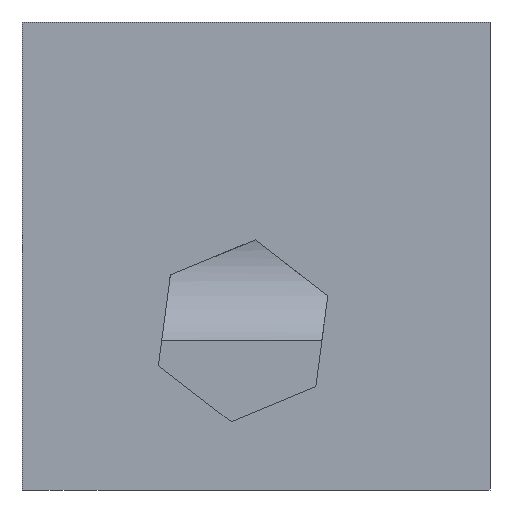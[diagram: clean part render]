
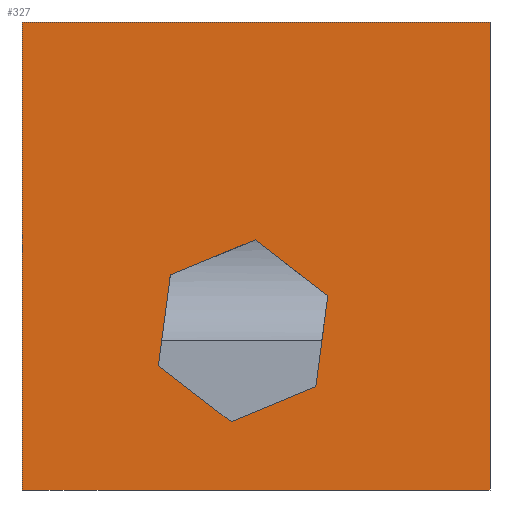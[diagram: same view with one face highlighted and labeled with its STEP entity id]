
A CAD part, left-side view. The second image highlights one B-rep face of the part: STEP entity #327.
In plain terms, the highlighted planar face has unit normal (-1, 0, 0).
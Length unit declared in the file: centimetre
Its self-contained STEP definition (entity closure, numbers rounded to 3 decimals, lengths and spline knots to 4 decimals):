
#3 = FACE_BOUND ( 'NONE', #12, .T. ) ;
#12 = EDGE_LOOP ( 'NONE', ( #637, #31, #753, #138, #776, #192 ) ) ;
#19 = DIRECTION ( 'NONE',  ( 0., 0.131, -0.991 ) ) ;
#21 = EDGE_CURVE ( 'NONE', #435, #377, #558, .T. ) ;
#22 = CARTESIAN_POINT ( 'NONE',  ( 0., 372.1596, 220.8421 ) ) ;
#31 = ORIENTED_EDGE ( 'NONE', *, *, #293, .F. ) ;
#40 = VECTOR ( 'NONE', #19, 100. ) ;
#43 = VECTOR ( 'NONE', #425, 100. ) ;
#64 = VECTOR ( 'NONE', #93, 100. ) ;
#77 = EDGE_CURVE ( 'NONE', #83, #524, #684, .T. ) ;
#81 = CARTESIAN_POINT ( 'NONE',  ( 0., 1000., 0. ) ) ;
#83 = VERTEX_POINT ( 'NONE', #81 ) ;
#93 = DIRECTION ( 'NONE',  ( 0., -0.793, -0.609 ) ) ;
#101 = CARTESIAN_POINT ( 'NONE',  ( 0., 553.2535, 145.9144 ) ) ;
#102 = CARTESIAN_POINT ( 'NONE',  ( 0., 1000., 1000. ) ) ;
#107 = CARTESIAN_POINT ( 'NONE',  ( 0., 501.9381, 534.5059 ) ) ;
#131 = EDGE_CURVE ( 'NONE', #288, #540, #746, .T. ) ;
#133 = CARTESIAN_POINT ( 'NONE',  ( 0., 346.5019, 415.1378 ) ) ;
#135 = VECTOR ( 'NONE', #449, 100. ) ;
#136 = EDGE_CURVE ( 'NONE', #377, #524, #454, .T. ) ;
#138 = ORIENTED_EDGE ( 'NONE', *, *, #254, .F. ) ;
#146 = CARTESIAN_POINT ( 'NONE',  ( 0., 683.032, 459.5782 ) ) ;
#157 = CARTESIAN_POINT ( 'NONE',  ( 0., 372.1596, 220.8421 ) ) ;
#188 = VERTEX_POINT ( 'NONE', #146 ) ;
#192 = ORIENTED_EDGE ( 'NONE', *, *, #131, .F. ) ;
#201 = VECTOR ( 'NONE', #751, 100. ) ;
#211 = CARTESIAN_POINT ( 'NONE',  ( 0., 708.6897, 265.2824 ) ) ;
#214 = EDGE_LOOP ( 'NONE', ( #758, #464, #299, #380 ) ) ;
#246 = AXIS2_PLACEMENT_3D ( 'NONE', #102, #352, #588 ) ;
#254 = EDGE_CURVE ( 'NONE', #447, #714, #757, .T. ) ;
#255 = DIRECTION ( 'NONE',  ( 0., 0., -1. ) ) ;
#266 = VECTOR ( 'NONE', #584, 100. ) ;
#275 = VERTEX_POINT ( 'NONE', #107 ) ;
#277 = CARTESIAN_POINT ( 'NONE',  ( 0., 1000., 1000. ) ) ;
#288 = VERTEX_POINT ( 'NONE', #481 ) ;
#293 = EDGE_CURVE ( 'NONE', #275, #188, #529, .T. ) ;
#299 = ORIENTED_EDGE ( 'NONE', *, *, #21, .F. ) ;
#327 = ADVANCED_FACE ( 'NONE', ( #3, #473 ), #539, .F. ) ;
#352 = DIRECTION ( 'NONE',  ( 1., 0., 0. ) ) ;
#362 = CARTESIAN_POINT ( 'NONE',  ( 0., 501.9381, 534.5059 ) ) ;
#363 = EDGE_CURVE ( 'NONE', #714, #275, #557, .T. ) ;
#375 = EDGE_CURVE ( 'NONE', #188, #288, #610, .T. ) ;
#377 = VERTEX_POINT ( 'NONE', #663 ) ;
#379 = DIRECTION ( 'NONE',  ( 0., 0.793, 0.609 ) ) ;
#380 = ORIENTED_EDGE ( 'NONE', *, *, #476, .T. ) ;
#401 = CARTESIAN_POINT ( 'NONE',  ( 0., 0., 0. ) ) ;
#407 = DIRECTION ( 'NONE',  ( 0., -0.131, 0.991 ) ) ;
#425 = DIRECTION ( 'NONE',  ( 0., 0.924, -0.382 ) ) ;
#429 = CARTESIAN_POINT ( 'NONE',  ( 0., 1000., 1000. ) ) ;
#435 = VERTEX_POINT ( 'NONE', #429 ) ;
#447 = VERTEX_POINT ( 'NONE', #22 ) ;
#449 = DIRECTION ( 'NONE',  ( 0., -1., 0. ) ) ;
#454 = LINE ( 'NONE', #692, #580 ) ;
#464 = ORIENTED_EDGE ( 'NONE', *, *, #136, .F. ) ;
#473 = FACE_OUTER_BOUND ( 'NONE', #214, .T. ) ;
#476 = EDGE_CURVE ( 'NONE', #435, #83, #492, .T. ) ;
#481 = CARTESIAN_POINT ( 'NONE',  ( 0., 708.6897, 265.2824 ) ) ;
#492 = LINE ( 'NONE', #548, #777 ) ;
#497 = CARTESIAN_POINT ( 'NONE',  ( 0., 683.032, 459.5782 ) ) ;
#524 = VERTEX_POINT ( 'NONE', #401 ) ;
#529 = LINE ( 'NONE', #362, #43 ) ;
#539 = PLANE ( 'NONE',  #246 ) ;
#540 = VERTEX_POINT ( 'NONE', #565 ) ;
#548 = CARTESIAN_POINT ( 'NONE',  ( 0., 1000., 1000. ) ) ;
#550 = VECTOR ( 'NONE', #379, 100. ) ;
#557 = LINE ( 'NONE', #133, #550 ) ;
#558 = LINE ( 'NONE', #277, #201 ) ;
#565 = CARTESIAN_POINT ( 'NONE',  ( 0., 553.2535, 145.9144 ) ) ;
#580 = VECTOR ( 'NONE', #630, 100. ) ;
#584 = DIRECTION ( 'NONE',  ( 0., -0.924, 0.382 ) ) ;
#588 = DIRECTION ( 'NONE',  ( 0., 0., -1. ) ) ;
#610 = LINE ( 'NONE', #497, #40 ) ;
#619 = CARTESIAN_POINT ( 'NONE',  ( 0., 1000., 0. ) ) ;
#630 = DIRECTION ( 'NONE',  ( 0., 0., -1. ) ) ;
#637 = ORIENTED_EDGE ( 'NONE', *, *, #375, .F. ) ;
#643 = LINE ( 'NONE', #101, #266 ) ;
#663 = CARTESIAN_POINT ( 'NONE',  ( 0., 0., 1000. ) ) ;
#684 = LINE ( 'NONE', #619, #135 ) ;
#692 = CARTESIAN_POINT ( 'NONE',  ( 0., 0., 1000. ) ) ;
#714 = VERTEX_POINT ( 'NONE', #716 ) ;
#716 = CARTESIAN_POINT ( 'NONE',  ( 0., 346.5019, 415.1378 ) ) ;
#746 = LINE ( 'NONE', #211, #64 ) ;
#751 = DIRECTION ( 'NONE',  ( 0., -1., 0. ) ) ;
#753 = ORIENTED_EDGE ( 'NONE', *, *, #363, .F. ) ;
#757 = LINE ( 'NONE', #157, #765 ) ;
#758 = ORIENTED_EDGE ( 'NONE', *, *, #77, .T. ) ;
#765 = VECTOR ( 'NONE', #407, 100. ) ;
#774 = EDGE_CURVE ( 'NONE', #540, #447, #643, .T. ) ;
#776 = ORIENTED_EDGE ( 'NONE', *, *, #774, .F. ) ;
#777 = VECTOR ( 'NONE', #255, 100. ) ;
